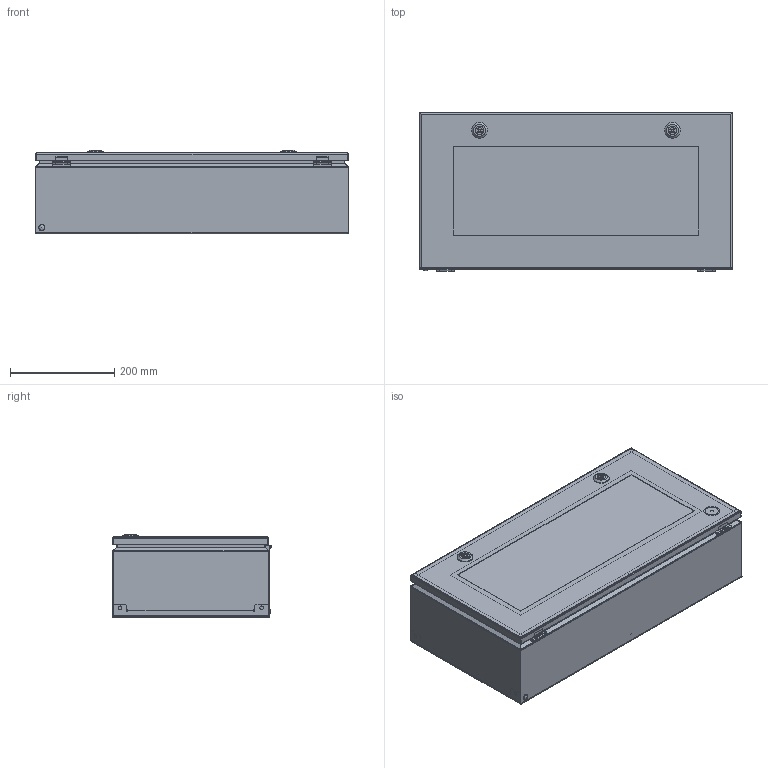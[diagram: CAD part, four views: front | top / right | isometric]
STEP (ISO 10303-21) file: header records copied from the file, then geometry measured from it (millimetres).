
FILE_DESCRIPTION (( 'STEP AP214' ), '1' );
FILE_NAME ('CCV 30.60.15-JG Ñèãíàëüíûé øêàô÷èê.STEP', '2023-04-11T10:12:13', ( '' ), ( '' ), 'SwSTEP 2.0', 'SolidWorks 2019', '' );
FILE_SCHEMA (( 'AUTOMOTIVE_DESIGN' ));
Length unit declared in the file: millimetre
Products named in the file (1): CCV 30.60.15-JG Ñèãíàëüíûé øêàô÷èê
Bounding box: 600 x 304.51 x 160.19 mm (x, y, z)
Volume: 1495410.2 mm3; surface area: 1800303 mm2
Topology: 31 solids, 31 shells, 1970 faces, 5223 edges, 3278 vertices
Faces by surface type: plane 860, cylinder 765, bspline 172, cone 132, torus 40, sphere 1
Entity records: 101674 total; most frequent: CARTESIAN_POINT 31982, ORIENTED_EDGE 10336, DIRECTION 9463, EDGE_CURVE 5168, AXIS2_PLACEMENT_3D 3350, VERTEX_POINT 3276, LINE 2763, VECTOR 2763
